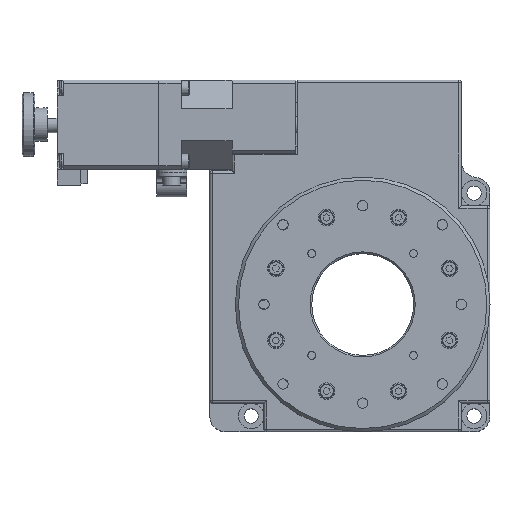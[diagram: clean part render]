
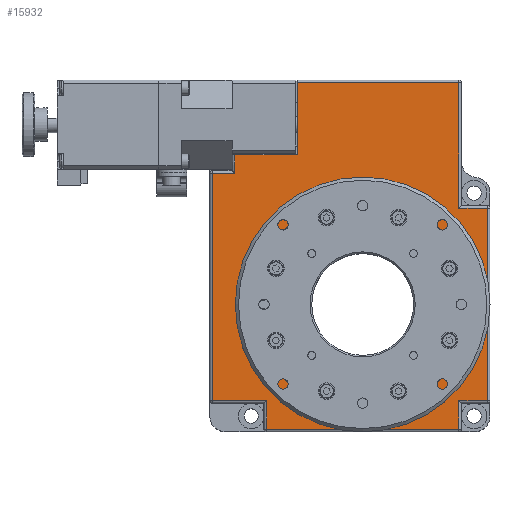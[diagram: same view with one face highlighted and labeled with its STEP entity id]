
A CAD part, top view. The second image highlights one B-rep face of the part: STEP entity #15932.
In plain terms, the highlighted planar face has unit normal (0, 0, 1).
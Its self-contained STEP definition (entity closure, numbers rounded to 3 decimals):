
#440=LINE('',#23634,#1811);
#443=LINE('',#23640,#1814);
#446=LINE('',#23656,#1817);
#452=LINE('',#23685,#1823);
#457=LINE('',#23704,#1828);
#460=LINE('',#23720,#1831);
#464=LINE('',#23736,#1835);
#467=LINE('',#23742,#1838);
#468=LINE('',#23745,#1839);
#470=LINE('',#23748,#1841);
#473=LINE('',#23754,#1844);
#474=LINE('',#23758,#1845);
#480=LINE('',#23770,#1851);
#605=LINE('',#24062,#1976);
#1811=VECTOR('',#18804,50.7);
#1814=VECTOR('',#18809,39.5);
#1817=VECTOR('',#18828,9.);
#1823=VECTOR('',#18860,60.4);
#1828=VECTOR('',#18879,9.);
#1831=VECTOR('',#18898,9.);
#1835=VECTOR('',#18916,60.4);
#1838=VECTOR('',#18921,9.);
#1839=VECTOR('',#18926,17.);
#1841=VECTOR('',#18930,71.4);
#1844=VECTOR('',#18935,7.);
#1845=VECTOR('',#18940,5.8);
#1851=VECTOR('',#18950,22.7);
#1976=VECTOR('',#19239,19.7);
#3168=PLANE('',#17034);
#3817=FACE_BOUND('',#5372,.T.);
#4449=FACE_OUTER_BOUND('',#5371,.T.);
#5371=EDGE_LOOP('',(#11684,#11685,#11686,#11687,#11688,#11689,#11690,#11691,
#11692,#11693,#11694,#11695,#11696,#11697));
#5372=EDGE_LOOP('',(#11698));
#6744=CIRCLE('',#17026,34.);
#7428=VERTEX_POINT('',#23615);
#7435=VERTEX_POINT('',#23632);
#7437=VERTEX_POINT('',#23639);
#7439=VERTEX_POINT('',#23644);
#7444=VERTEX_POINT('',#23660);
#7449=VERTEX_POINT('',#23673);
#7454=VERTEX_POINT('',#23689);
#7459=VERTEX_POINT('',#23703);
#7461=VERTEX_POINT('',#23708);
#7466=VERTEX_POINT('',#23724);
#7471=VERTEX_POINT('',#23741);
#7473=VERTEX_POINT('',#23753);
#7474=VERTEX_POINT('',#23757);
#7478=VERTEX_POINT('',#23768);
#7559=VERTEX_POINT('',#24041);
#9006=EDGE_CURVE('',#7435,#7428,#440,.T.);
#9009=EDGE_CURVE('',#7428,#7437,#443,.T.);
#9017=EDGE_CURVE('',#7437,#7439,#446,.T.);
#9031=EDGE_CURVE('',#7439,#7449,#452,.T.);
#9040=EDGE_CURVE('',#7449,#7459,#457,.T.);
#9048=EDGE_CURVE('',#7459,#7461,#460,.T.);
#9056=EDGE_CURVE('',#7461,#7466,#464,.T.);
#9059=EDGE_CURVE('',#7466,#7471,#467,.T.);
#9061=EDGE_CURVE('',#7471,#7454,#468,.T.);
#9063=EDGE_CURVE('',#7454,#7444,#470,.T.);
#9066=EDGE_CURVE('',#7444,#7473,#473,.T.);
#9068=EDGE_CURVE('',#7473,#7474,#474,.T.);
#9075=EDGE_CURVE('',#7435,#7478,#480,.T.);
#9215=EDGE_CURVE('',#7559,#7559,#6744,.T.);
#9225=EDGE_CURVE('',#7478,#7474,#605,.T.);
#11684=ORIENTED_EDGE('',*,*,#9006,.F.);
#11685=ORIENTED_EDGE('',*,*,#9075,.T.);
#11686=ORIENTED_EDGE('',*,*,#9225,.T.);
#11687=ORIENTED_EDGE('',*,*,#9068,.F.);
#11688=ORIENTED_EDGE('',*,*,#9066,.F.);
#11689=ORIENTED_EDGE('',*,*,#9063,.F.);
#11690=ORIENTED_EDGE('',*,*,#9061,.F.);
#11691=ORIENTED_EDGE('',*,*,#9059,.F.);
#11692=ORIENTED_EDGE('',*,*,#9056,.F.);
#11693=ORIENTED_EDGE('',*,*,#9048,.F.);
#11694=ORIENTED_EDGE('',*,*,#9040,.F.);
#11695=ORIENTED_EDGE('',*,*,#9031,.F.);
#11696=ORIENTED_EDGE('',*,*,#9017,.F.);
#11697=ORIENTED_EDGE('',*,*,#9009,.F.);
#11698=ORIENTED_EDGE('',*,*,#9215,.T.);
#15932=ADVANCED_FACE('',(#4449,#3817),#3168,.T.);
#17026=AXIS2_PLACEMENT_3D('',#24042,#19215,#19216);
#17034=AXIS2_PLACEMENT_3D('',#24063,#19240,#19241);
#18804=DIRECTION('',(1.,0.,0.));
#18809=DIRECTION('',(0.,-1.,0.));
#18828=DIRECTION('',(1.,0.,0.));
#18860=DIRECTION('',(0.,-1.,0.));
#18879=DIRECTION('',(-1.,0.,0.));
#18898=DIRECTION('',(0.,-1.,0.));
#18916=DIRECTION('',(-1.,0.,0.));
#18921=DIRECTION('',(0.,1.,0.));
#18926=DIRECTION('',(-1.,0.,0.));
#18930=DIRECTION('',(0.,1.,0.));
#18935=DIRECTION('',(1.,0.,0.));
#18940=DIRECTION('',(0.,1.,0.));
#18950=DIRECTION('',(0.,-1.,0.));
#19215=DIRECTION('center_axis',(0.,0.,
-1.));
#19216=DIRECTION('ref_axis',(-1.,0.,0.));
#19239=DIRECTION('',(-1.,0.,0.));
#19240=DIRECTION('center_axis',(0.,0.,
1.));
#19241=DIRECTION('ref_axis',(1.,0.,0.));
#23615=CARTESIAN_POINT('',(30.2,69.7,27.5));
#23632=CARTESIAN_POINT('',(-20.5,69.7,27.5));
#23634=CARTESIAN_POINT('',(14.001,69.7,27.5));
#23639=CARTESIAN_POINT('',(30.2,30.2,27.5));
#23640=CARTESIAN_POINT('',(30.2,22.114,27.5));
#23644=CARTESIAN_POINT('',(39.2,30.2,27.5));
#23656=CARTESIAN_POINT('',(18.501,30.2,27.5));
#23660=CARTESIAN_POINT('',(-47.2,41.2,27.5));
#23673=CARTESIAN_POINT('',(39.2,-30.2,27.5));
#23685=CARTESIAN_POINT('',(39.2,-8.886,27.5));
#23689=CARTESIAN_POINT('',(-47.2,-30.2,27.5));
#23703=CARTESIAN_POINT('',(30.2,-30.2,27.5));
#23704=CARTESIAN_POINT('',(14.001,-30.2,27.5));
#23708=CARTESIAN_POINT('',(30.2,-39.2,27.5));
#23720=CARTESIAN_POINT('',(30.2,-13.386,27.5));
#23724=CARTESIAN_POINT('',(-30.2,-39.2,27.5));
#23736=CARTESIAN_POINT('',(-16.999,-39.2,27.5));
#23741=CARTESIAN_POINT('',(-30.2,-30.2,27.5));
#23742=CARTESIAN_POINT('',(-30.2,-8.886,27.5));
#23745=CARTESIAN_POINT('',(-25.499,-30.2,27.5));
#23748=CARTESIAN_POINT('',(-47.2,27.614,27.5));
#23753=CARTESIAN_POINT('',(-40.2,41.2,27.5));
#23754=CARTESIAN_POINT('',(-21.999,41.2,27.5));
#23757=CARTESIAN_POINT('',(-40.2,47.,27.5));
#23758=CARTESIAN_POINT('',(-40.2,30.114,27.5));
#23768=CARTESIAN_POINT('',(-20.5,47.,27.5));
#23770=CARTESIAN_POINT('',(-20.5,47.,27.5));
#24041=CARTESIAN_POINT('',(34.,0.,27.5));
#24042=CARTESIAN_POINT('Origin',(0.,0.,
27.5));
#24062=CARTESIAN_POINT('',(-41.,47.,27.5));
#24063=CARTESIAN_POINT('Origin',(-2.998,13.228,27.5));
